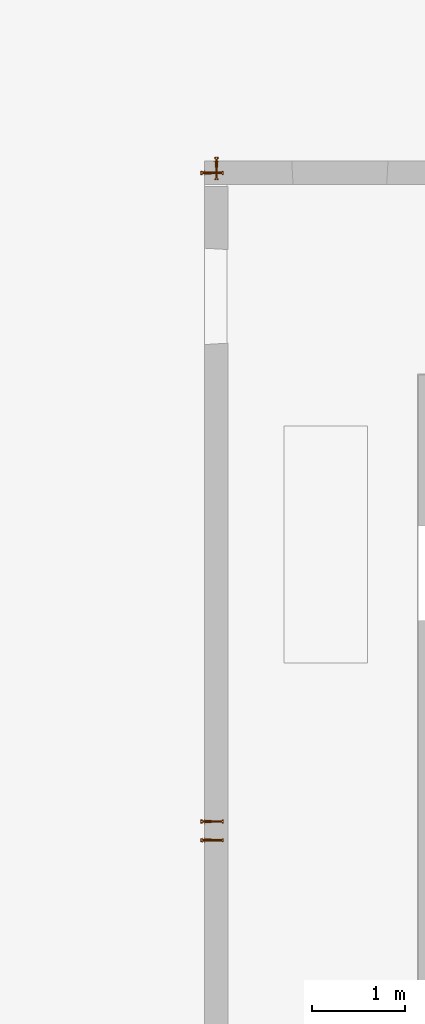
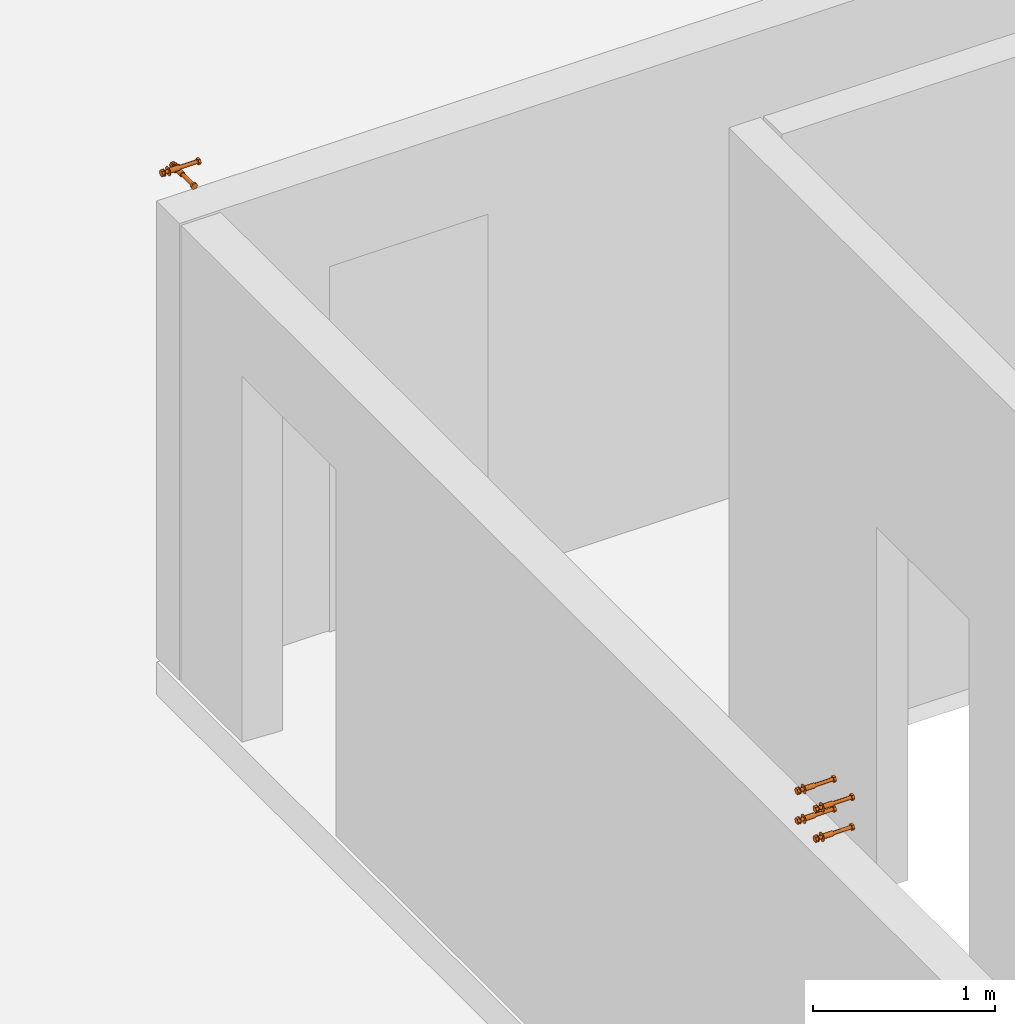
# One storey, part 9 of 9: 6 proxies.
"""IFC2X3 building model written with IfcOpenShell, lengths in millimetres."""

from ifc_helpers import new_model, entity, si_unit, converted_unit, derived_unit, direction, frame, frame_2d, origin, place, context, subcontext, project, spatial, polyline, circle, outline, extrude, source, transform, mapped, material, type_object, type_shapes, element, save


model = new_model("IFC2X3")

# Units and contexts
model_context = context("Model", 3, precision=0.01, world=origin(), true_north=direction((6.12303176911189e-17, 1.0)))
body_context = subcontext(model_context, "Body", "Model", "MODEL_VIEW")
ifc_project = project(units=[si_unit("LENGTHUNIT", "METRE", prefix="MILLI"), si_unit("AREAUNIT", "SQUARE_METRE"), si_unit("VOLUMEUNIT", "CUBIC_METRE"), converted_unit("PLANEANGLEUNIT", "DEGREE", entity("IfcRatioMeasure", 0.0174532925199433), si_unit("PLANEANGLEUNIT", "RADIAN"), dimensions=[0, 0, 0, 0, 0, 0, 0]), si_unit("MASSUNIT", "GRAM", prefix="KILO"), derived_unit("MASSDENSITYUNIT", [(si_unit("MASSUNIT", "GRAM", prefix="KILO"), 1), (si_unit("LENGTHUNIT", "METRE"), -3)]), si_unit("TIMEUNIT", "SECOND"), si_unit("FREQUENCYUNIT", "HERTZ"), si_unit("THERMODYNAMICTEMPERATUREUNIT", "DEGREE_CELSIUS"), derived_unit("THERMALTRANSMITTANCEUNIT", [(si_unit("MASSUNIT", "GRAM", prefix="KILO"), 1), (si_unit("THERMODYNAMICTEMPERATUREUNIT", "KELVIN"), -1), (si_unit("TIMEUNIT", "SECOND"), -3)]), derived_unit("VOLUMETRICFLOWRATEUNIT", [(si_unit("LENGTHUNIT", "METRE"), 3), (si_unit("TIMEUNIT", "SECOND"), -1)]), si_unit("ELECTRICCURRENTUNIT", "AMPERE"), si_unit("ELECTRICVOLTAGEUNIT", "VOLT"), si_unit("POWERUNIT", "WATT"), si_unit("FORCEUNIT", "NEWTON", prefix="KILO"), si_unit("ILLUMINANCEUNIT", "LUX"), si_unit("LUMINOUSFLUXUNIT", "LUMEN"), si_unit("LUMINOUSINTENSITYUNIT", "CANDELA"), derived_unit("USERDEFINED", [(si_unit("MASSUNIT", "GRAM", prefix="KILO"), -1), (si_unit("LENGTHUNIT", "METRE"), -2), (si_unit("TIMEUNIT", "SECOND"), 3), (si_unit("LUMINOUSFLUXUNIT", "LUMEN"), 1)]), derived_unit("LINEARVELOCITYUNIT", [(si_unit("LENGTHUNIT", "METRE"), 1), (si_unit("TIMEUNIT", "SECOND"), -1)]), si_unit("PRESSUREUNIT", "PASCAL"), derived_unit("USERDEFINED", [(si_unit("LENGTHUNIT", "METRE"), -2), (si_unit("MASSUNIT", "GRAM", prefix="KILO"), 1), (si_unit("TIMEUNIT", "SECOND"), -2)])], contexts=[model_context])

# Site, building, storey
site_placement = place(None, origin())
site = spatial("IfcSite", under=ifc_project, at=site_placement, Name="Default", CompositionType="ELEMENT")
building_placement = place(site_placement, origin())
building = spatial("IfcBuilding", under=site, at=building_placement, Name="niet gebruiken", CompositionType="ELEMENT")
storey_placement = place(building_placement, frame((0.0, 0.0, 178840.0)))
storey = spatial("IfcBuildingStorey", under=building, at=storey_placement, Name="57 zevenenvijftigste verdieping", CompositionType="ELEMENT", Elevation=178840.0)

# Proxies
ifc_material = material(Name="NLRS_h2_staal")
building_element_proxy_type = type_object("IfcBuildingElementProxyType", Name="M24x200", PredefinedType="NOTDEFINED", material=ifc_material)
shared_shape = source(origin(), body_context, "Body", "SweptSolid", [
    extrude(circle(Radius=12.0, at=frame_2d((-3.69272717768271e-16, -5.40254932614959e-14), x_axis=(1.0, 0.0))), frame((0.0, -25.0, 0.0), z_axis=(0.0, 1.0, 0.0), x_axis=(1.0, 0.0, 0.0)), (0.0, 0.0, 1.0), 25.0),
    extrude(circle(Radius=22.0, at=frame_2d((1.74570214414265e-15, -9.90467376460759e-14), x_axis=(1.0, 0.0))), frame((0.0, -29.0, 0.0), z_axis=(0.0, 1.0, 0.0), x_axis=(1.0, 0.0, 0.0)), (0.0, 0.0, 1.0), 3.99999999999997),
    extrude(outline(polyline([(-10.4021724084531, -18.017091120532), (10.4021724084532, -18.017091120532), (20.8043448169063, 0.0), (10.4021724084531, 18.017091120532), (-10.4021724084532, 18.0170911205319), (-20.8043448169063, 0.0), (-10.4021724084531, -18.017091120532)])), frame((-0.029602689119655, -44.0, -0.0170911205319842), z_axis=(0.0, 1.0, 0.0), x_axis=(0.500000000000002, 0.0, 0.866025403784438)), (0.0, 0.0, 1.0), 15.0),
    extrude(outline(polyline([(-10.4021724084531, -18.017091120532), (10.4021724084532, -18.017091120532), (20.8043448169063, 0.0), (10.4021724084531, 18.017091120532), (-10.4021724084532, 18.0170911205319), (-20.8043448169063, 0.0), (-10.4021724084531, -18.017091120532)])), frame((-0.029602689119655, 185.0, -0.0170911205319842), z_axis=(0.0, 1.0, 0.0), x_axis=(0.500000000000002, 0.0, 0.866025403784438)), (0.0, 0.0, 1.0), 15.0),
    extrude(circle(Radius=12.0, at=frame_2d((-3.69272717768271e-16, -5.40254932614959e-14), x_axis=(1.0, 0.0))), frame((0.0, 70.0, 0.0), z_axis=(0.0, 1.0, 0.0), x_axis=(1.0, 0.0, 0.0)), (0.0, 0.0, 1.0), 115.0),
    extrude(circle(Radius=16.0, at=frame_2d((-3.69272717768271e-16, -7.20339910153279e-14), x_axis=(1.0, 0.0))), frame((0.0, 2.0, 0.0), z_axis=(0.0, 1.0, 0.0), x_axis=(1.0, 0.0, 0.0)), (0.0, 0.0, 1.0), 68.0),
    extrude(circle(Radius=28.5, at=frame_2d((1.74570214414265e-15, -1.28310546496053e-13), x_axis=(1.0, 0.0))), frame((0.0, 0.0, 0.0), z_axis=(0.0, 1.0, 0.0), x_axis=(1.0, 0.0, 0.0)), (0.0, 0.0, 1.0), 2.0),
])
type_shapes(building_element_proxy_type, [shared_shape])
for number, where, z_axis, x_axis, name in (
    (1, (135750.0, 24575.0, 3275.0), (0.0, 0.0, 1.0), (0.0, -1.0, 0.0), "NLRS_28.10_SF_WPB_DEMU 1985 boutanker_gen:M24x200"),
    (2, (135875.0, 24700.0, 3175.0), (0.0, 0.0, 1.0), (-1.0, 0.0, 0.0), "NLRS_28.10_SF_WPB_DEMU 1985 boutanker_gen:M24x200"),
    (3, (135750.0, 17400.0, 3165.0), (0.0, 0.0, 1.0), (0.0, -1.0, 0.0), "NLRS_28.10_SF_WPB_DEMU 1985 boutanker_gen:M24x200"),
    (4, (135750.0, 17600.0, 3165.0), (0.0, 0.0, 1.0), (0.0, -1.0, 0.0), "NLRS_28.10_SF_WPB_DEMU 1985 boutanker_gen:M24x200"),
    (5, (135750.0, 17400.0, 3365.0), (0.0, 0.0, 1.0), (0.0, -1.0, 0.0), "NLRS_28.10_SF_WPB_DEMU 1985 boutanker_gen:M24x200"),
    (6, (135750.0, 17600.0, 3365.0), (0.0, 0.0, 1.0), (0.0, -1.0, 0.0), "NLRS_28.10_SF_WPB_DEMU 1985 boutanker_gen:M24x200"),
):
    element("IfcBuildingElementProxy", number, at=place(storey_placement, frame(where, z_axis=z_axis, x_axis=x_axis)), inside=storey, type_object=building_element_proxy_type, material=ifc_material, Name=name, ObjectType="M24x200", context=body_context, shape_type="MappedRepresentation", body=[
        mapped(shared_shape, transform((0.0, 0.0, 0.0), scale=1.0)),
    ])

save(model, "model.ifc")
